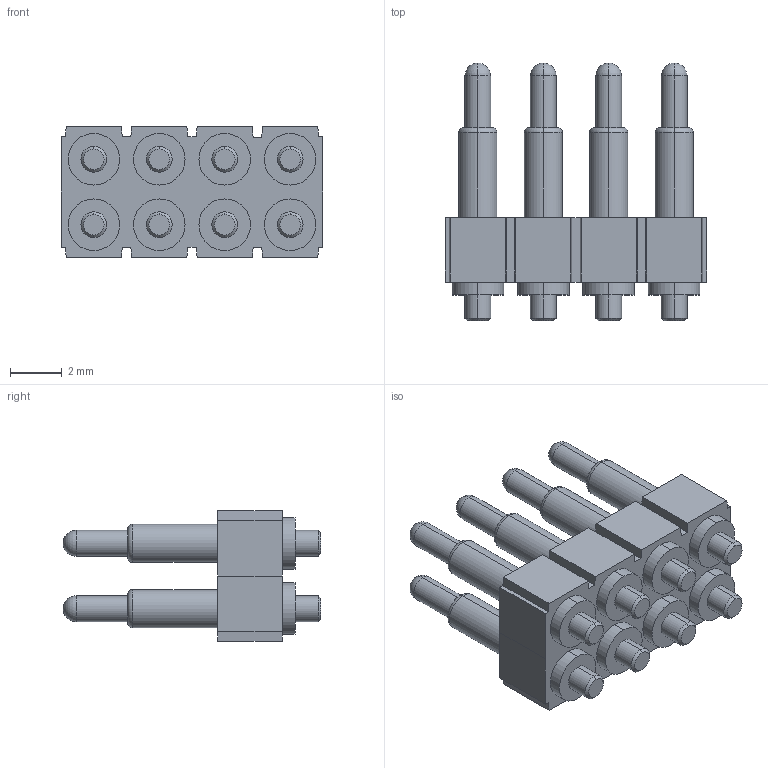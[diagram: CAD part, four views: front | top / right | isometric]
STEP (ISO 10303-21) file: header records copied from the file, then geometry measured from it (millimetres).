
FILE_DESCRIPTION((''),'2;1');
FILE_NAME('ASM0001_ASM','2022-04-14T10:33:35',('Administrator'),(''),'CREO PARAMETRIC BY PTC INC, 2018400','CREO PARAMETRIC BY PTC INC, 2018400','');
FILE_SCHEMA(('CONFIG_CONTROL_DESIGN'));
Length unit declared in the file: millimetre
Products named in the file (3): PH-8P-2R-2_54PH-2_5H-AC; NC4618-01PA; ASM0001_ASM
Assembly tree (9 placements, depth 2):
  ASM0001_ASM
    PH-8P-2R-2_54PH-2_5H-AC
    NC4618-01PA  x8
Bounding box: 10.16 x 10 x 5.08 mm (x, y, z)
Volume: 206.3 mm3; surface area: 630.8 mm2
Topology: 9 solids, 9 shells, 255 faces, 559 edges, 338 vertices
Faces by surface type: cylinder 112, plane 79, cone 32, sphere 16, torus 16
Entity records: 2619 total; most frequent: DIRECTION 455, CARTESIAN_POINT 434, ORIENTED_EDGE 414, EDGE_CURVE 207, AXIS2_PLACEMENT_3D 156, VECTOR 143, LINE 143, VERTEX_POINT 135
